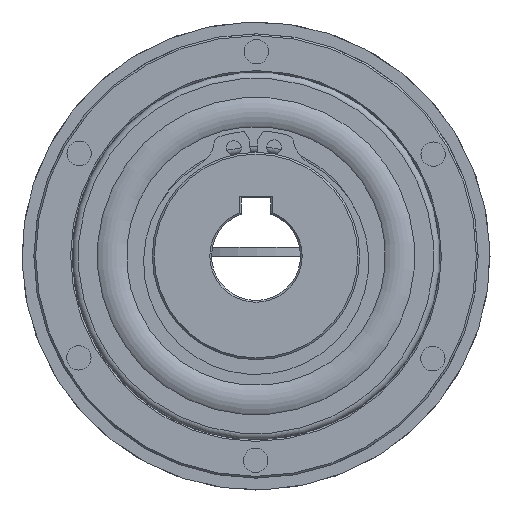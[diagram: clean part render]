
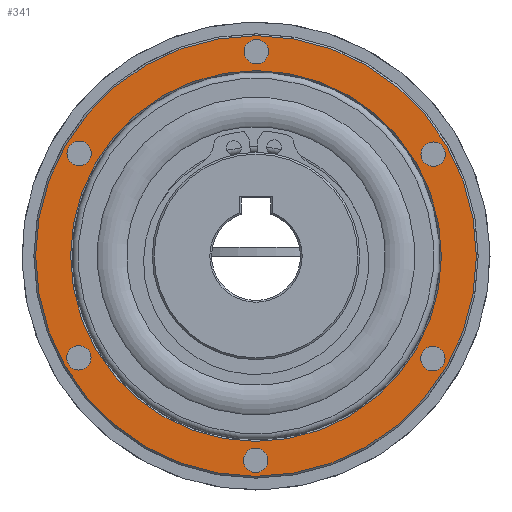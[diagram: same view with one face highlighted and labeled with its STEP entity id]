
A CAD part, left-side view. The second image highlights one B-rep face of the part: STEP entity #341.
In plain terms, the highlighted planar face has unit normal (-1, 0, 0).
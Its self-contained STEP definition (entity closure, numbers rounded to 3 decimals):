
#341 = ADVANCED_FACE( '', ( #618, #619, #620, #621, #622, #623, #624, #625 ), #626, .F. );
#618 = FACE_OUTER_BOUND( '', #930, .T. );
#619 = FACE_BOUND( '', #931, .T. );
#620 = FACE_BOUND( '', #932, .T. );
#621 = FACE_BOUND( '', #933, .T. );
#622 = FACE_BOUND( '', #934, .T. );
#623 = FACE_BOUND( '', #935, .T. );
#624 = FACE_BOUND( '', #936, .T. );
#625 = FACE_BOUND( '', #937, .T. );
#626 = PLANE( '', #938 );
#930 = EDGE_LOOP( '', ( #1522 ) );
#931 = EDGE_LOOP( '', ( #1523 ) );
#932 = EDGE_LOOP( '', ( #1524 ) );
#933 = EDGE_LOOP( '', ( #1525 ) );
#934 = EDGE_LOOP( '', ( #1526 ) );
#935 = EDGE_LOOP( '', ( #1527 ) );
#936 = EDGE_LOOP( '', ( #1528 ) );
#937 = EDGE_LOOP( '', ( #1529 ) );
#938 = AXIS2_PLACEMENT_3D( '', #1530, #1531, #1532 );
#1522 = ORIENTED_EDGE( '', *, *, #1753, .T. );
#1523 = ORIENTED_EDGE( '', *, *, #1754, .T. );
#1524 = ORIENTED_EDGE( '', *, *, #1755, .T. );
#1525 = ORIENTED_EDGE( '', *, *, #1756, .T. );
#1526 = ORIENTED_EDGE( '', *, *, #1757, .T. );
#1527 = ORIENTED_EDGE( '', *, *, #1758, .T. );
#1528 = ORIENTED_EDGE( '', *, *, #1759, .T. );
#1529 = ORIENTED_EDGE( '', *, *, #1760, .T. );
#1530 = CARTESIAN_POINT( '', ( -17.1, 37.5, 0. ) );
#1531 = DIRECTION( '', ( 1., 0., 0. ) );
#1532 = DIRECTION( '', ( 0., 1., 0. ) );
#1753 = EDGE_CURVE( '', #2014, #2014, #2015, .T. );
#1754 = EDGE_CURVE( '', #2016, #2016, #2017, .T. );
#1755 = EDGE_CURVE( '', #2018, #2018, #2019, .T. );
#1756 = EDGE_CURVE( '', #2020, #2020, #2021, .T. );
#1757 = EDGE_CURVE( '', #2022, #2022, #2023, .T. );
#1758 = EDGE_CURVE( '', #2024, #2024, #2025, .T. );
#1759 = EDGE_CURVE( '', #2026, #2026, #2027, .T. );
#1760 = EDGE_CURVE( '', #2028, #2028, #2029, .T. );
#2014 = VERTEX_POINT( '', #2638 );
#2015 = CIRCLE( '', #2639, 37.2 );
#2016 = VERTEX_POINT( '', #2640 );
#2017 = CIRCLE( '', #2641, 31.3 );
#2018 = VERTEX_POINT( '', #2642 );
#2019 = CIRCLE( '', #2643, 2.067 );
#2020 = VERTEX_POINT( '', #2644 );
#2021 = CIRCLE( '', #2645, 2.067 );
#2022 = VERTEX_POINT( '', #2646 );
#2023 = CIRCLE( '', #2647, 2.067 );
#2024 = VERTEX_POINT( '', #2648 );
#2025 = CIRCLE( '', #2649, 2.067 );
#2026 = VERTEX_POINT( '', #2650 );
#2027 = CIRCLE( '', #2651, 2.067 );
#2028 = VERTEX_POINT( '', #2652 );
#2029 = CIRCLE( '', #2653, 2.067 );
#2638 = CARTESIAN_POINT( '', ( -17.1, 0., -37.2 ) );
#2639 = AXIS2_PLACEMENT_3D( '', #2976, #2977, #2978 );
#2640 = CARTESIAN_POINT( '', ( -17.1, 0., -31.3 ) );
#2641 = AXIS2_PLACEMENT_3D( '', #2979, #2980, #2981 );
#2642 = CARTESIAN_POINT( '', ( -17.1, 31.668, 18.284 ) );
#2643 = AXIS2_PLACEMENT_3D( '', #2982, #2983, #2984 );
#2644 = CARTESIAN_POINT( '', ( -17.1, 31.668, -18.284 ) );
#2645 = AXIS2_PLACEMENT_3D( '', #2985, #2986, #2987 );
#2646 = CARTESIAN_POINT( '', ( -17.1, 0., -36.567 ) );
#2647 = AXIS2_PLACEMENT_3D( '', #2988, #2989, #2990 );
#2648 = CARTESIAN_POINT( '', ( -17.1, -31.668, -18.284 ) );
#2649 = AXIS2_PLACEMENT_3D( '', #2991, #2992, #2993 );
#2650 = CARTESIAN_POINT( '', ( -17.1, -31.668, 18.284 ) );
#2651 = AXIS2_PLACEMENT_3D( '', #2994, #2995, #2996 );
#2652 = CARTESIAN_POINT( '', ( -17.1, 0., 36.567 ) );
#2653 = AXIS2_PLACEMENT_3D( '', #2997, #2998, #2999 );
#2976 = CARTESIAN_POINT( '', ( -17.1, 0., 0. ) );
#2977 = DIRECTION( '', ( -1., 0., 0. ) );
#2978 = DIRECTION( '', ( 0., 0., -1. ) );
#2979 = CARTESIAN_POINT( '', ( -17.1, 0., 0. ) );
#2980 = DIRECTION( '', ( 1., 0., 0. ) );
#2981 = DIRECTION( '', ( 0., 0., -1. ) );
#2982 = CARTESIAN_POINT( '', ( -17.1, 29.878, 17.25 ) );
#2983 = DIRECTION( '', ( 1., 0., 0. ) );
#2984 = DIRECTION( '', ( 0., 0.866, 0.5 ) );
#2985 = CARTESIAN_POINT( '', ( -17.1, 29.878, -17.25 ) );
#2986 = DIRECTION( '', ( 1., 0., 0. ) );
#2987 = DIRECTION( '', ( 0., 0.866, -0.5 ) );
#2988 = CARTESIAN_POINT( '', ( -17.1, 0., -34.5 ) );
#2989 = DIRECTION( '', ( 1., 0., 0. ) );
#2990 = DIRECTION( '', ( 0., 0., -1. ) );
#2991 = CARTESIAN_POINT( '', ( -17.1, -29.878, -17.25 ) );
#2992 = DIRECTION( '', ( 1., 0., 0. ) );
#2993 = DIRECTION( '', ( 0., -0.866, -0.5 ) );
#2994 = CARTESIAN_POINT( '', ( -17.1, -29.878, 17.25 ) );
#2995 = DIRECTION( '', ( 1., 0., 0. ) );
#2996 = DIRECTION( '', ( 0., -0.866, 0.5 ) );
#2997 = CARTESIAN_POINT( '', ( -17.1, 0., 34.5 ) );
#2998 = DIRECTION( '', ( 1., 0., 0. ) );
#2999 = DIRECTION( '', ( 0., 0., 1. ) );
